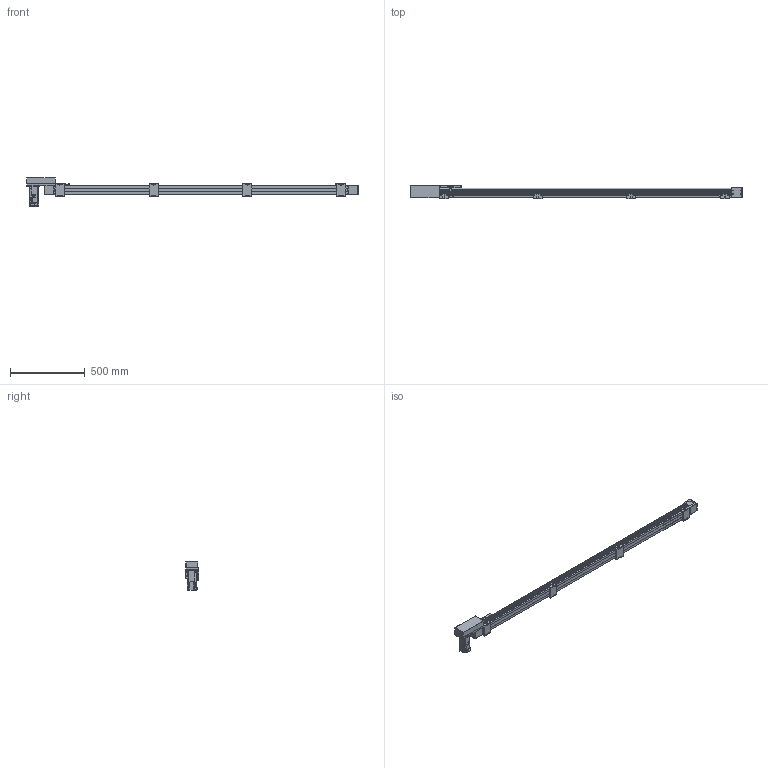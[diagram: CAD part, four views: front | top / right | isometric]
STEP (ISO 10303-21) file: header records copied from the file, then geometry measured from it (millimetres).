
FILE_DESCRIPTION(/* description */ ('STEP AP214'),/* implementation_level */ '2;1');
FILE_NAME(/* name */ 'SK60-P13-S1800-R-T40-C1-N(0)',/* time_stamp */ '2023-04-06T04:28:00+02:00',/* author */ ('License CC BY-ND 4.0'),/* organization */ ('CADENAS'),/* preprocessor_version */ 'ST-DEVELOPER v19.3',/* originating_system */ 'PARTsolutions',/* authorisation */ ' ');
FILE_SCHEMA (('AUTOMOTIVE_DESIGN {1 0 10303 214 3 1 1}'));
Length unit declared in the file: millimetre
Products named in the file (10): SK60-P13-S1800-R-T40-C1-N(0); PSC140-sensor; SK60-S450_seat; SK60-S450-BL-C1_slider; SK60_body3; SK60_body6; SK60-BL_body2; T40-p1; SK60-R_fb; SK60-S1800-R-C1_body
Assembly tree (18 placements, depth 2):
  SK60-P13-S1800-R-T40-C1-N(0)
    PSC140-sensor  x3
    SK60-S450_seat  x4
    SK60-S450-BL-C1_slider
    SK60_body3  x3
    SK60_body6  x2
    SK60-BL_body2  x2
    T40-p1
    SK60-R_fb
    SK60-S1800-R-C1_body
Bounding box: 2220.5 x 90 x 189.7 mm (x, y, z)
Volume: 8341993.6 mm3; surface area: 1003301.3 mm2
Topology: 18 solids, 18 shells, 898 faces, 2244 edges, 1477 vertices
Faces by surface type: plane 572, cylinder 294, cone 30, torus 2
Full cylindrical faces by diameter (mm): 2.8 x3, 3.3 x4, 4 x2, 4.5 x30, 4.6 x3, 4.917 x24, 5 x6, 5.478 x4, 5.5 x27, 6.5 x8, 7 x2, 8 x4, 8.5 x4, 9.988 x4, 10 x16, 14 x1, 47 x3, 50 x2
Entity records: 18671 total; most frequent: DIRECTION 3188, CARTESIAN_POINT 3152, ORIENTED_EDGE 2940, EDGE_CURVE 1470, AXIS2_PLACEMENT_3D 1070, LINE 1048, VECTOR 1048, VERTEX_POINT 1034
